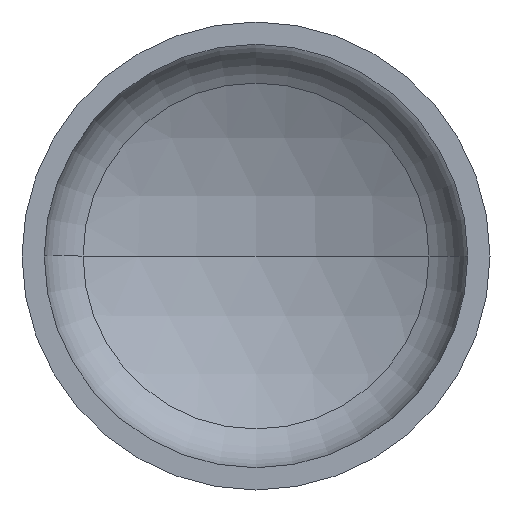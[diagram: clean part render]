
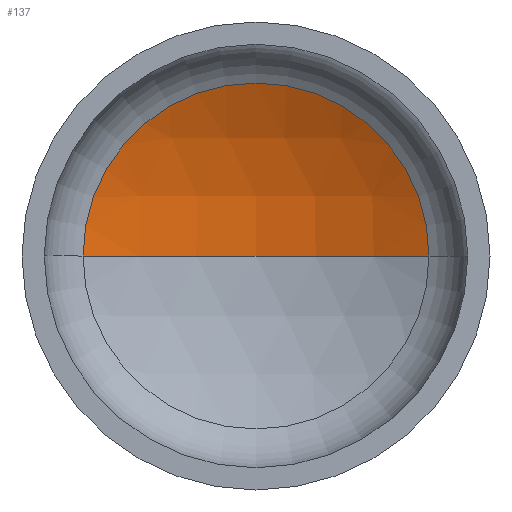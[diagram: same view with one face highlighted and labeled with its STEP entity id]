
A CAD part, front view. The second image highlights one B-rep face of the part: STEP entity #137.
In plain terms, the highlighted spherical face has radius 1920 mm.
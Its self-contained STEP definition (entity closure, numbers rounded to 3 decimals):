
#2 = DIRECTION ( 'NONE',  ( 1., 0., 0. ) ) ;
#14 = CARTESIAN_POINT ( 'NONE',  ( 0., 620.284, 0. ) ) ;
#30 = AXIS2_PLACEMENT_3D ( 'NONE', #343, #129, #285 ) ;
#32 = DIRECTION ( 'NONE',  ( 0., 0., 1. ) ) ;
#33 = AXIS2_PLACEMENT_3D ( 'NONE', #255, #32, #2 ) ;
#34 = AXIS2_PLACEMENT_3D ( 'NONE', #138, #118, #87 ) ;
#38 = AXIS2_PLACEMENT_3D ( 'NONE', #169, #163, #160 ) ;
#73 = VERTEX_POINT ( 'NONE', #286 ) ;
#78 = EDGE_CURVE ( 'NONE', #399, #73, #260, .T. ) ;
#86 = EDGE_CURVE ( 'NONE', #213, #399, #404, .T. ) ;
#87 = DIRECTION ( 'NONE',  ( -1., 0., 0. ) ) ;
#92 = CARTESIAN_POINT ( 'NONE',  ( 886.916, 403.158, 0. ) ) ;
#97 = EDGE_CURVE ( 'NONE', #213, #73, #321, .T. ) ;
#111 = FACE_OUTER_BOUND ( 'NONE', #295, .T. ) ;
#118 = DIRECTION ( 'NONE',  ( 0., 0., -1. ) ) ;
#129 = DIRECTION ( 'NONE',  ( 0., 0., -1. ) ) ;
#137 = ADVANCED_FACE ( 'NONE', ( #111 ), #313, .F. ) ;
#138 = CARTESIAN_POINT ( 'NONE',  ( 0., -1299.716, 0. ) ) ;
#160 = DIRECTION ( 'NONE',  ( 1., 0., 0. ) ) ;
#163 = DIRECTION ( 'NONE',  ( 0., -1., 0. ) ) ;
#169 = CARTESIAN_POINT ( 'NONE',  ( 0., 403.158, 0. ) ) ;
#213 = VERTEX_POINT ( 'NONE', #14 ) ;
#226 = ORIENTED_EDGE ( 'NONE', *, *, #78, .T. ) ;
#255 = CARTESIAN_POINT ( 'NONE',  ( 0., -1299.716, 0. ) ) ;
#260 = CIRCLE ( 'NONE', #38, 886.916 ) ;
#278 = ORIENTED_EDGE ( 'NONE', *, *, #97, .F. ) ;
#285 = DIRECTION ( 'NONE',  ( -1., 0., 0. ) ) ;
#286 = CARTESIAN_POINT ( 'NONE',  ( -886.916, 403.158, 0. ) ) ;
#295 = EDGE_LOOP ( 'NONE', ( #278, #322, #226 ) ) ;
#313 = SPHERICAL_SURFACE ( 'NONE', #30, 1920. ) ;
#321 = CIRCLE ( 'NONE', #33, 1920. ) ;
#322 = ORIENTED_EDGE ( 'NONE', *, *, #86, .T. ) ;
#343 = CARTESIAN_POINT ( 'NONE',  ( 0., -1299.716, 0. ) ) ;
#399 = VERTEX_POINT ( 'NONE', #92 ) ;
#404 = CIRCLE ( 'NONE', #34, 1920. ) ;
